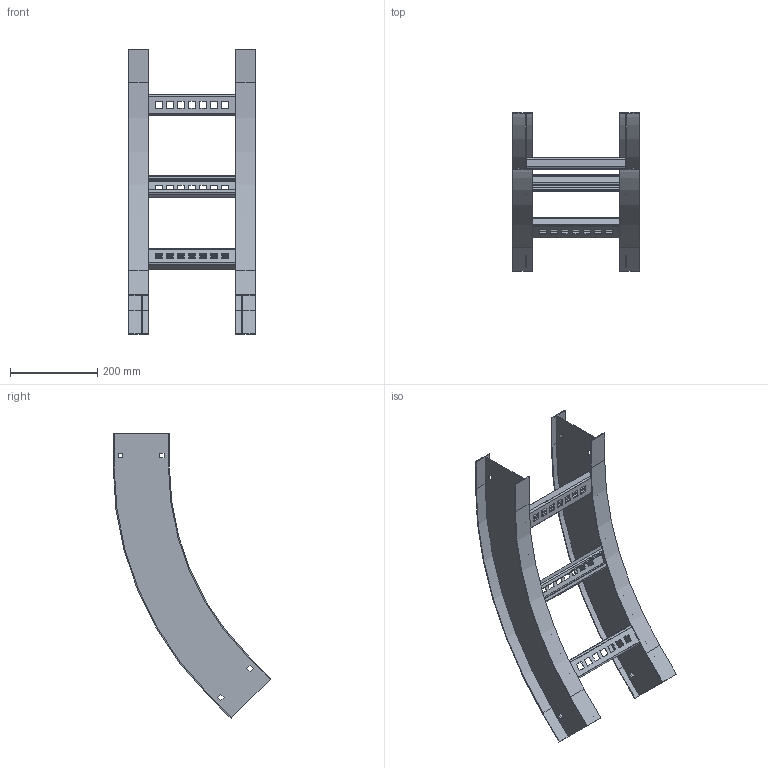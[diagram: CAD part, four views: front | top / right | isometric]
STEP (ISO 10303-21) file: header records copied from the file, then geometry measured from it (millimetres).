
FILE_DESCRIPTION((''),'2;1');
FILE_NAME('AHF509LVO4524_ASM','2010-02-01T',('erouzier'),(''),'PRO/ENGINEER BY PARAMETRIC TECHNOLOGY CORPORATION, 2008510','PRO/ENGINEER BY PARAMETRIC TECHNOLOGY CORPORATION, 2008510','');
FILE_SCHEMA(('CONFIG_CONTROL_DESIGN'));
Length unit declared in the file: inch
Products named in the file (3): CDS001658_5_45_24; CDS002159L9-P; AHF509LVO4524_ASM
Assembly tree (5 placements, depth 2):
  AHF509LVO4524_ASM
    CDS001658_5_45_24  x2
    CDS002159L9-P  x3
Bounding box: 289.81 x 361.46 x 652.37 mm (x, y, z)
Volume: 694930 mm3; surface area: 743190.2 mm2
Topology: 5 solids, 5 shells, 342 faces, 996 edges, 664 vertices
Faces by surface type: plane 213, cylinder 129
Entity records: 4388 total; most frequent: CARTESIAN_POINT 756, ORIENTED_EDGE 744, DIRECTION 734, EDGE_CURVE 372, VECTOR 282, LINE 282, VERTEX_POINT 248, AXIS2_PLACEMENT_3D 226
